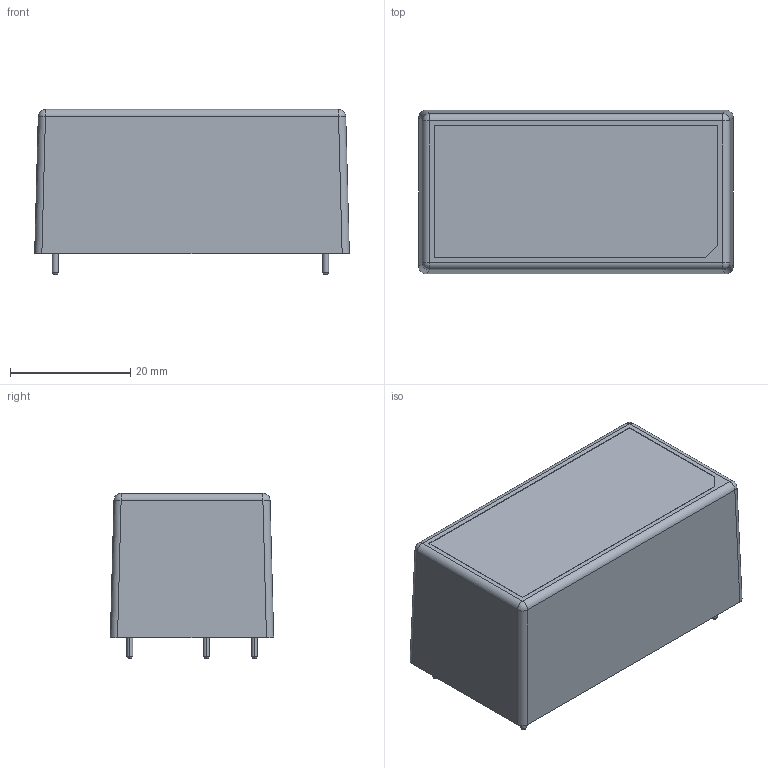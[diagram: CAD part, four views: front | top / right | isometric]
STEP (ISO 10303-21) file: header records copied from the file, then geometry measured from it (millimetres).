
FILE_DESCRIPTION(('Creo Elements/Direct Modeling STEP Export'),'2;1');
FILE_NAME('MPM-20.stp','2020-06-04T10:47:18',(''),(''),'PTC Creo Elements/Direct Modeling STEP processor for AP214 (Solid Model)','PTC Creo Elements/Direct Modeling 19.0E 27-Jun-2016 (C) Parametric Technology GmbH','');
FILE_SCHEMA(('AUTOMOTIVE_DESIGN { 1 0 10303 214 1 1 1 1 }'));
Length unit declared in the file: millimetre
Products named in the file (29): PCB.PRT; PCB; BASE; CASE; SS.PRT; 11.PRT; 11.PRT.1; C5; PINRY095.PRT.3; PINRY095.PRT; PINRY095.PRT.1; PINRY095.PRT.2; PIN; C105; C106; Y_1_1.PRT; Y_1_1_1.PRT; C1; 11.PRT.2; 11.PRT.2.1; U2.PRT; PART.ASM; TF1.PRT; C6; FS1; PART; MFM-15-20
Assembly tree (28 placements, depth 4):
  MFM-15-20
    PART
      FS1
      C6
      TF1.PRT
      PART.ASM
        U2.PRT
      C1
        11.PRT.2.1
        11.PRT.2
        C1
      Y_1_1_1.PRT
      Y_1_1.PRT
      C106
      C105
      PIN
        PINRY095.PRT.2
        PINRY095.PRT.1
        PINRY095.PRT
        PINRY095.PRT.3
      C5
        11.PRT.1
        11.PRT
        SS.PRT
    CASE
      CASE
      BASE
    PCB
      PCB.PRT
Bounding box: 52.4 x 27.2 x 27.5 mm (x, y, z)
Volume: 17194.3 mm3; surface area: 19904.6 mm2
Topology: 21 solids, 21 shells, 442 faces, 1061 edges, 678 vertices
Faces by surface type: plane 202, cylinder 152, cone 56, torus 24, sphere 8
Entity records: 13612 total; most frequent: CARTESIAN_POINT 2755, ORIENTED_EDGE 2106, DIRECTION 2077, EDGE_CURVE 1053, AXIS2_PLACEMENT_3D 756, VERTEX_POINT 678, VECTOR 565, LINE 565
